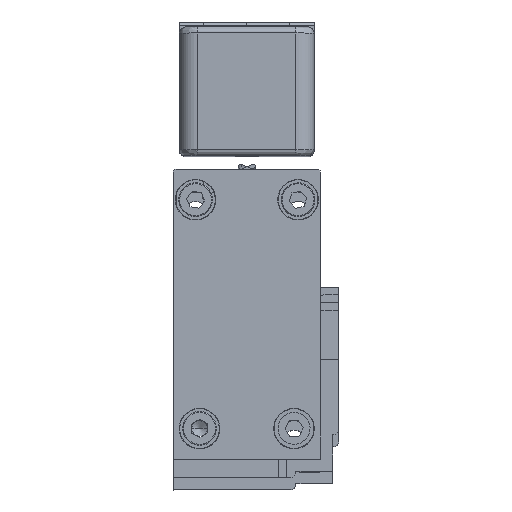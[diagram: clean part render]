
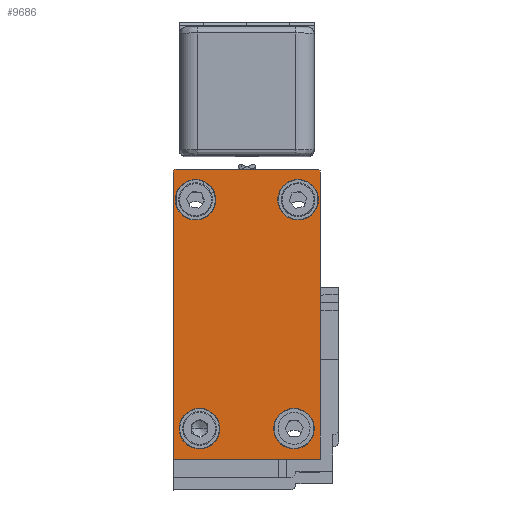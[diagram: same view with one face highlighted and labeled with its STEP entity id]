
A CAD part, top view. The second image highlights one B-rep face of the part: STEP entity #9686.
In plain terms, the highlighted planar face has unit normal (0, 0, 1).
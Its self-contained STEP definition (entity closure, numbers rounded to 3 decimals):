
#208 = CIRCLE ( 'NONE', #28865, 3.302 ) ;
#431 = CARTESIAN_POINT ( 'NONE',  ( 5.984, 7.11, 3185. ) ) ;
#724 = EDGE_CURVE ( 'NONE', #2060, #3056, #19347, .T. ) ;
#726 = ORIENTED_EDGE ( 'NONE', *, *, #1705, .T. ) ;
#1103 = CARTESIAN_POINT ( 'NONE',  ( -18.014, -20.888, 3185. ) ) ;
#1309 = DIRECTION ( 'NONE',  ( 0., 0., -1. ) ) ;
#1593 = DIRECTION ( 'NONE',  ( -1., 0., 0. ) ) ;
#1705 = EDGE_CURVE ( 'NONE', #5394, #24396, #19466, .T. ) ;
#1836 = VERTEX_POINT ( 'NONE', #9863 ) ;
#1838 = EDGE_CURVE ( 'NONE', #15677, #19674, #15920, .T. ) ;
#2060 = VERTEX_POINT ( 'NONE', #9187 ) ;
#2085 = VECTOR ( 'NONE', #23634, 1000. ) ;
#2253 = DIRECTION ( 'NONE',  ( 0., 0., -1. ) ) ;
#2378 = ORIENTED_EDGE ( 'NONE', *, *, #13687, .T. ) ;
#2412 = EDGE_LOOP ( 'NONE', ( #23217, #15588 ) ) ;
#2836 = CARTESIAN_POINT ( 'NONE',  ( 4.978, -15.887, 3185. ) ) ;
#2960 = AXIS2_PLACEMENT_3D ( 'NONE', #17951, #4328, #20209 ) ;
#2967 = DIRECTION ( 'NONE',  ( 0., 0., -1. ) ) ;
#3056 = VERTEX_POINT ( 'NONE', #11031 ) ;
#3116 = CARTESIAN_POINT ( 'NONE',  ( 2.335, 21.401, 3185. ) ) ;
#3331 = CARTESIAN_POINT ( 'NONE',  ( -10.412, -15.887, 3185. ) ) ;
#3371 = CARTESIAN_POINT ( 'NONE',  ( -17.667, 21.401, 3185. ) ) ;
#3713 = CIRCLE ( 'NONE', #20938, 3.302 ) ;
#3840 = EDGE_CURVE ( 'NONE', #5389, #18339, #26185, .T. ) ;
#4328 = DIRECTION ( 'NONE',  ( 0., 0., -1. ) ) ;
#4689 = DIRECTION ( 'NONE',  ( 0., 0., -1. ) ) ;
#5379 = DIRECTION ( 'NONE',  ( -1., 0., 0. ) ) ;
#5389 = VERTEX_POINT ( 'NONE', #6904 ) ;
#5394 = VERTEX_POINT ( 'NONE', #25049 ) ;
#5551 = ORIENTED_EDGE ( 'NONE', *, *, #3840, .T. ) ;
#5685 = EDGE_LOOP ( 'NONE', ( #6053, #26326 ) ) ;
#5904 = CIRCLE ( 'NONE', #2960, 3.302 ) ;
#6053 = ORIENTED_EDGE ( 'NONE', *, *, #19523, .T. ) ;
#6770 = CARTESIAN_POINT ( 'NONE',  ( -11.063, 21.401, 3185. ) ) ;
#6904 = CARTESIAN_POINT ( 'NONE',  ( -17.017, -15.887, 3185. ) ) ;
#7270 = CARTESIAN_POINT ( 'NONE',  ( 1.676, -15.887, 3185. ) ) ;
#7563 = AXIS2_PLACEMENT_3D ( 'NONE', #3116, #18986, #5379 ) ;
#7656 = CARTESIAN_POINT ( 'NONE',  ( -14.365, 21.401, 3185. ) ) ;
#8122 = CARTESIAN_POINT ( 'NONE',  ( -17.514, 26.371, 3185. ) ) ;
#8224 = DIRECTION ( 'NONE',  ( -1., 0., 0. ) ) ;
#8603 = VERTEX_POINT ( 'NONE', #6770 ) ;
#8940 = EDGE_CURVE ( 'NONE', #1836, #16529, #17813, .T. ) ;
#9187 = CARTESIAN_POINT ( 'NONE',  ( 5.984, 25.871, 3185. ) ) ;
#9239 = ORIENTED_EDGE ( 'NONE', *, *, #21657, .T. ) ;
#9492 = ORIENTED_EDGE ( 'NONE', *, *, #18973, .T. ) ;
#9548 = DIRECTION ( 'NONE',  ( -1., 0., 0. ) ) ;
#9550 = CARTESIAN_POINT ( 'NONE',  ( 5.637, 21.401, 3185. ) ) ;
#9686 = ADVANCED_FACE ( 'NONE', ( #24365, #12260, #26511, #18322, #27231 ), #14254, .T. ) ;
#9758 = DIRECTION ( 'NONE',  ( 0., -1., 0. ) ) ;
#9792 = CARTESIAN_POINT ( 'NONE',  ( -18.014, -20.888, 3185. ) ) ;
#9863 = CARTESIAN_POINT ( 'NONE',  ( -18.014, 25.871, 3185. ) ) ;
#9938 = DIRECTION ( 'NONE',  ( -1., 0., 0. ) ) ;
#10301 = EDGE_CURVE ( 'NONE', #26402, #17166, #3713, .T. ) ;
#11031 = CARTESIAN_POINT ( 'NONE',  ( 5.485, 26.371, 3185. ) ) ;
#11226 = EDGE_CURVE ( 'NONE', #17166, #26402, #12070, .T. ) ;
#11234 = EDGE_LOOP ( 'NONE', ( #726, #9492, #16441, #18320, #11587, #9239, #25398 ) ) ;
#11587 = ORIENTED_EDGE ( 'NONE', *, *, #8940, .F. ) ;
#11839 = LINE ( 'NONE', #19530, #23908 ) ;
#12070 = CIRCLE ( 'NONE', #29365, 3.302 ) ;
#12081 = DIRECTION ( 'NONE',  ( -1., 0., 0. ) ) ;
#12146 = AXIS2_PLACEMENT_3D ( 'NONE', #14906, #1309, #17207 ) ;
#12260 = FACE_BOUND ( 'NONE', #27650, .T. ) ;
#12509 = EDGE_CURVE ( 'NONE', #12734, #5394, #19471, .T. ) ;
#12734 = VERTEX_POINT ( 'NONE', #13904 ) ;
#13234 = CARTESIAN_POINT ( 'NONE',  ( 5.485, 25.871, 3185. ) ) ;
#13576 = VERTEX_POINT ( 'NONE', #3371 ) ;
#13687 = EDGE_CURVE ( 'NONE', #18339, #5389, #21244, .T. ) ;
#13904 = CARTESIAN_POINT ( 'NONE',  ( -18.014, -20.888, 3185. ) ) ;
#14074 = VECTOR ( 'NONE', #23461, 1000. ) ;
#14254 = PLANE ( 'NONE',  #19010 ) ;
#14317 = CARTESIAN_POINT ( 'NONE',  ( 5.984, 7.11, 3185. ) ) ;
#14906 = CARTESIAN_POINT ( 'NONE',  ( -17.514, 25.871, 3185. ) ) ;
#14982 = ORIENTED_EDGE ( 'NONE', *, *, #1838, .T. ) ;
#15193 = DIRECTION ( 'NONE',  ( 0., 0., -1. ) ) ;
#15475 = CARTESIAN_POINT ( 'NONE',  ( -1.626, -15.887, 3185. ) ) ;
#15522 = DIRECTION ( 'NONE',  ( 0., 1., 0. ) ) ;
#15588 = ORIENTED_EDGE ( 'NONE', *, *, #11226, .T. ) ;
#15677 = VERTEX_POINT ( 'NONE', #26815 ) ;
#15703 = CARTESIAN_POINT ( 'NONE',  ( 5.984, -20.888, 3185. ) ) ;
#15870 = CARTESIAN_POINT ( 'NONE',  ( 1.676, -15.887, 3185. ) ) ;
#15920 = CIRCLE ( 'NONE', #7563, 3.302 ) ;
#16441 = ORIENTED_EDGE ( 'NONE', *, *, #724, .T. ) ;
#16529 = VERTEX_POINT ( 'NONE', #8122 ) ;
#16568 = CARTESIAN_POINT ( 'NONE',  ( -13.714, -15.887, 3185. ) ) ;
#17166 = VERTEX_POINT ( 'NONE', #2836 ) ;
#17207 = DIRECTION ( 'NONE',  ( 0., 1., 0. ) ) ;
#17493 = ORIENTED_EDGE ( 'NONE', *, *, #19379, .T. ) ;
#17757 = AXIS2_PLACEMENT_3D ( 'NONE', #16568, #2967, #18845 ) ;
#17813 = CIRCLE ( 'NONE', #12146, 0.5 ) ;
#17951 = CARTESIAN_POINT ( 'NONE',  ( 2.335, 21.401, 3185. ) ) ;
#18000 = CIRCLE ( 'NONE', #20879, 3.302 ) ;
#18161 = DIRECTION ( 'NONE',  ( -1., 0., 0. ) ) ;
#18313 = CARTESIAN_POINT ( 'NONE',  ( -14.365, 21.401, 3185. ) ) ;
#18320 = ORIENTED_EDGE ( 'NONE', *, *, #21068, .T. ) ;
#18322 = FACE_BOUND ( 'NONE', #27875, .T. ) ;
#18339 = VERTEX_POINT ( 'NONE', #3331 ) ;
#18845 = DIRECTION ( 'NONE',  ( -1., 0., 0. ) ) ;
#18973 = EDGE_CURVE ( 'NONE', #24396, #2060, #20837, .T. ) ;
#18986 = DIRECTION ( 'NONE',  ( 0., 0., -1. ) ) ;
#19010 = AXIS2_PLACEMENT_3D ( 'NONE', #9792, #25685, #12081 ) ;
#19347 = CIRCLE ( 'NONE', #21034, 0.5 ) ;
#19379 = EDGE_CURVE ( 'NONE', #19674, #15677, #5904, .T. ) ;
#19466 = LINE ( 'NONE', #15703, #24815 ) ;
#19471 = LINE ( 'NONE', #1103, #2085 ) ;
#19523 = EDGE_CURVE ( 'NONE', #13576, #8603, #208, .T. ) ;
#19530 = CARTESIAN_POINT ( 'NONE',  ( 5.485, 26.371, 3185. ) ) ;
#19674 = VERTEX_POINT ( 'NONE', #9550 ) ;
#20209 = DIRECTION ( 'NONE',  ( -1., 0., 0. ) ) ;
#20578 = DIRECTION ( 'NONE',  ( -1., 0., 0. ) ) ;
#20837 = LINE ( 'NONE', #14317, #14074 ) ;
#20879 = AXIS2_PLACEMENT_3D ( 'NONE', #7656, #23531, #9938 ) ;
#20938 = AXIS2_PLACEMENT_3D ( 'NONE', #15870, #2253, #18161 ) ;
#20984 = CARTESIAN_POINT ( 'NONE',  ( -18.014, 25.871, 3185. ) ) ;
#21034 = AXIS2_PLACEMENT_3D ( 'NONE', #13234, #29122, #15522 ) ;
#21068 = EDGE_CURVE ( 'NONE', #3056, #16529, #11839, .T. ) ;
#21244 = CIRCLE ( 'NONE', #23909, 3.302 ) ;
#21657 = EDGE_CURVE ( 'NONE', #1836, #12734, #21800, .T. ) ;
#21800 = LINE ( 'NONE', #20984, #27155 ) ;
#23140 = DIRECTION ( 'NONE',  ( 0., 0., -1. ) ) ;
#23217 = ORIENTED_EDGE ( 'NONE', *, *, #10301, .T. ) ;
#23461 = DIRECTION ( 'NONE',  ( 0., 1., 0. ) ) ;
#23531 = DIRECTION ( 'NONE',  ( 0., 0., -1. ) ) ;
#23634 = DIRECTION ( 'NONE',  ( 1., 0., 0. ) ) ;
#23908 = VECTOR ( 'NONE', #8224, 1000. ) ;
#23909 = AXIS2_PLACEMENT_3D ( 'NONE', #28804, #15193, #1593 ) ;
#24365 = FACE_BOUND ( 'NONE', #5685, .T. ) ;
#24396 = VERTEX_POINT ( 'NONE', #431 ) ;
#24539 = EDGE_CURVE ( 'NONE', #8603, #13576, #18000, .T. ) ;
#24815 = VECTOR ( 'NONE', #29200, 1000. ) ;
#25049 = CARTESIAN_POINT ( 'NONE',  ( 5.984, -20.888, 3185. ) ) ;
#25398 = ORIENTED_EDGE ( 'NONE', *, *, #12509, .T. ) ;
#25685 = DIRECTION ( 'NONE',  ( 0., 0., 1. ) ) ;
#26185 = CIRCLE ( 'NONE', #17757, 3.302 ) ;
#26326 = ORIENTED_EDGE ( 'NONE', *, *, #24539, .T. ) ;
#26402 = VERTEX_POINT ( 'NONE', #15475 ) ;
#26511 = FACE_BOUND ( 'NONE', #2412, .T. ) ;
#26815 = CARTESIAN_POINT ( 'NONE',  ( -0.967, 21.401, 3185. ) ) ;
#27155 = VECTOR ( 'NONE', #9758, 1000. ) ;
#27231 = FACE_OUTER_BOUND ( 'NONE', #11234, .T. ) ;
#27650 = EDGE_LOOP ( 'NONE', ( #14982, #17493 ) ) ;
#27875 = EDGE_LOOP ( 'NONE', ( #5551, #2378 ) ) ;
#28804 = CARTESIAN_POINT ( 'NONE',  ( -13.714, -15.887, 3185. ) ) ;
#28865 = AXIS2_PLACEMENT_3D ( 'NONE', #18313, #4689, #20578 ) ;
#29122 = DIRECTION ( 'NONE',  ( 0., 0., 1. ) ) ;
#29200 = DIRECTION ( 'NONE',  ( 0., 1., 0. ) ) ;
#29365 = AXIS2_PLACEMENT_3D ( 'NONE', #7270, #23140, #9548 ) ;
